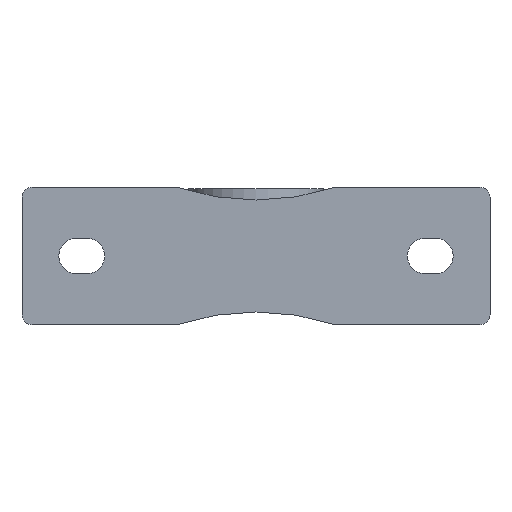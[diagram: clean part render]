
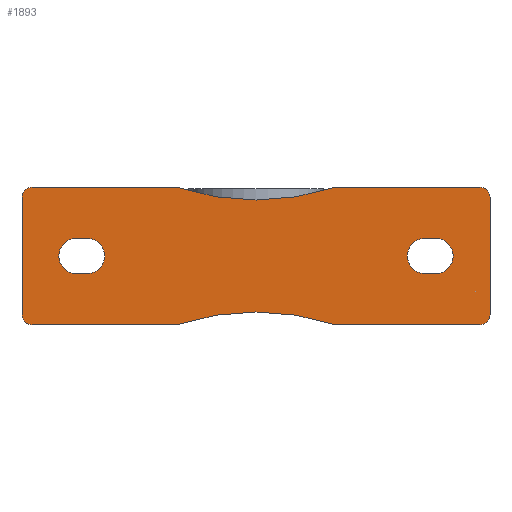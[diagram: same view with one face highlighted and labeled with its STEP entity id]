
A CAD part, front view. The second image highlights one B-rep face of the part: STEP entity #1893.
In plain terms, the highlighted planar face has unit normal (0, -1, 0).
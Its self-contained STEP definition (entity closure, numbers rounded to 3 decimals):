
#84=FACE_BOUND('',#267,.T.);
#85=FACE_BOUND('',#268,.T.);
#104=PLANE('',#2092);
#159=FACE_OUTER_BOUND('',#266,.T.);
#266=EDGE_LOOP('',(#1233,#1234,#1235,#1236,#1237,#1238,#1239,#1240,#1241,
#1242,#1243,#1244));
#267=EDGE_LOOP('',(#1245,#1246,#1247,#1248));
#268=EDGE_LOOP('',(#1249,#1250,#1251,#1252));
#427=LINE('',#2893,#549);
#428=LINE('',#2897,#550);
#429=LINE('',#2901,#551);
#430=LINE('',#2905,#552);
#431=LINE('',#2909,#553);
#432=LINE('',#2912,#554);
#433=LINE('',#2917,#555);
#434=LINE('',#2920,#556);
#435=LINE('',#2925,#557);
#436=LINE('',#2928,#558);
#549=VECTOR('',#2313,10.);
#550=VECTOR('',#2316,10.);
#551=VECTOR('',#2319,10.);
#552=VECTOR('',#2322,10.);
#553=VECTOR('',#2325,10.);
#554=VECTOR('',#2328,10.);
#555=VECTOR('',#2331,10.);
#556=VECTOR('',#2334,10.);
#557=VECTOR('',#2337,10.);
#558=VECTOR('',#2340,10.);
#672=CIRCLE('',#2093,4.);
#673=CIRCLE('',#2094,98.);
#674=CIRCLE('',#2095,4.);
#675=CIRCLE('',#2096,4.);
#676=CIRCLE('',#2097,98.);
#677=CIRCLE('',#2098,4.);
#678=CIRCLE('',#2099,7.);
#679=CIRCLE('',#2100,7.);
#680=CIRCLE('',#2101,7.);
#681=CIRCLE('',#2102,7.);
#766=VERTEX_POINT('',#2889);
#767=VERTEX_POINT('',#2890);
#768=VERTEX_POINT('',#2892);
#769=VERTEX_POINT('',#2894);
#770=VERTEX_POINT('',#2896);
#771=VERTEX_POINT('',#2898);
#772=VERTEX_POINT('',#2900);
#773=VERTEX_POINT('',#2902);
#774=VERTEX_POINT('',#2904);
#775=VERTEX_POINT('',#2906);
#776=VERTEX_POINT('',#2908);
#777=VERTEX_POINT('',#2910);
#778=VERTEX_POINT('',#2913);
#779=VERTEX_POINT('',#2914);
#780=VERTEX_POINT('',#2916);
#781=VERTEX_POINT('',#2918);
#782=VERTEX_POINT('',#2921);
#783=VERTEX_POINT('',#2922);
#784=VERTEX_POINT('',#2924);
#785=VERTEX_POINT('',#2926);
#954=EDGE_CURVE('',#766,#767,#672,.T.);
#955=EDGE_CURVE('',#766,#768,#427,.T.);
#956=EDGE_CURVE('',#768,#769,#673,.T.);
#957=EDGE_CURVE('',#769,#770,#428,.T.);
#958=EDGE_CURVE('',#771,#770,#674,.T.);
#959=EDGE_CURVE('',#771,#772,#429,.T.);
#960=EDGE_CURVE('',#773,#772,#675,.T.);
#961=EDGE_CURVE('',#774,#773,#430,.T.);
#962=EDGE_CURVE('',#774,#775,#676,.T.);
#963=EDGE_CURVE('',#776,#775,#431,.T.);
#964=EDGE_CURVE('',#777,#776,#677,.T.);
#965=EDGE_CURVE('',#777,#767,#432,.T.);
#966=EDGE_CURVE('',#778,#779,#678,.T.);
#967=EDGE_CURVE('',#779,#780,#433,.T.);
#968=EDGE_CURVE('',#780,#781,#679,.T.);
#969=EDGE_CURVE('',#781,#778,#434,.T.);
#970=EDGE_CURVE('',#782,#783,#680,.T.);
#971=EDGE_CURVE('',#783,#784,#435,.T.);
#972=EDGE_CURVE('',#784,#785,#681,.T.);
#973=EDGE_CURVE('',#785,#782,#436,.T.);
#1233=ORIENTED_EDGE('',*,*,#954,.F.);
#1234=ORIENTED_EDGE('',*,*,#955,.T.);
#1235=ORIENTED_EDGE('',*,*,#956,.T.);
#1236=ORIENTED_EDGE('',*,*,#957,.T.);
#1237=ORIENTED_EDGE('',*,*,#958,.F.);
#1238=ORIENTED_EDGE('',*,*,#959,.T.);
#1239=ORIENTED_EDGE('',*,*,#960,.F.);
#1240=ORIENTED_EDGE('',*,*,#961,.F.);
#1241=ORIENTED_EDGE('',*,*,#962,.T.);
#1242=ORIENTED_EDGE('',*,*,#963,.F.);
#1243=ORIENTED_EDGE('',*,*,#964,.F.);
#1244=ORIENTED_EDGE('',*,*,#965,.T.);
#1245=ORIENTED_EDGE('',*,*,#966,.T.);
#1246=ORIENTED_EDGE('',*,*,#967,.T.);
#1247=ORIENTED_EDGE('',*,*,#968,.T.);
#1248=ORIENTED_EDGE('',*,*,#969,.T.);
#1249=ORIENTED_EDGE('',*,*,#970,.T.);
#1250=ORIENTED_EDGE('',*,*,#971,.T.);
#1251=ORIENTED_EDGE('',*,*,#972,.T.);
#1252=ORIENTED_EDGE('',*,*,#973,.T.);
#1893=ADVANCED_FACE('',(#159,#84,#85),#104,.F.);
#2092=AXIS2_PLACEMENT_3D('',#2888,#2309,#2310);
#2093=AXIS2_PLACEMENT_3D('',#2891,#2311,#2312);
#2094=AXIS2_PLACEMENT_3D('',#2895,#2314,#2315);
#2095=AXIS2_PLACEMENT_3D('',#2899,#2317,#2318);
#2096=AXIS2_PLACEMENT_3D('',#2903,#2320,#2321);
#2097=AXIS2_PLACEMENT_3D('',#2907,#2323,#2324);
#2098=AXIS2_PLACEMENT_3D('',#2911,#2326,#2327);
#2099=AXIS2_PLACEMENT_3D('',#2915,#2329,#2330);
#2100=AXIS2_PLACEMENT_3D('',#2919,#2332,#2333);
#2101=AXIS2_PLACEMENT_3D('',#2923,#2335,#2336);
#2102=AXIS2_PLACEMENT_3D('',#2927,#2338,#2339);
#2309=DIRECTION('center_axis',(0.,1.,0.));
#2310=DIRECTION('ref_axis',(0.,0.,1.));
#2311=DIRECTION('center_axis',(0.,1.,0.));
#2312=DIRECTION('ref_axis',(-0.707,0.,-0.707));
#2313=DIRECTION('',(1.,0.,0.));
#2314=DIRECTION('center_axis',(0.,1.,0.));
#2315=DIRECTION('ref_axis',(1.,0.,0.));
#2316=DIRECTION('',(1.,0.,0.));
#2317=DIRECTION('center_axis',(0.,1.,0.));
#2318=DIRECTION('ref_axis',(0.707,0.,-0.707));
#2319=DIRECTION('',(0.,0.,1.));
#2320=DIRECTION('center_axis',(0.,1.,0.));
#2321=DIRECTION('ref_axis',(0.707,0.,0.707));
#2322=DIRECTION('',(1.,0.,0.));
#2323=DIRECTION('center_axis',(0.,1.,0.));
#2324=DIRECTION('ref_axis',(1.,0.,0.));
#2325=DIRECTION('',(1.,0.,0.));
#2326=DIRECTION('center_axis',(0.,1.,0.));
#2327=DIRECTION('ref_axis',(-0.707,0.,0.707));
#2328=DIRECTION('',(0.,0.,-1.));
#2329=DIRECTION('center_axis',(0.,1.,0.));
#2330=DIRECTION('ref_axis',(0.,0.,1.));
#2331=DIRECTION('',(1.,0.,0.));
#2332=DIRECTION('center_axis',(0.,1.,0.));
#2333=DIRECTION('ref_axis',(0.,0.,-1.));
#2334=DIRECTION('',(-1.,0.,0.));
#2335=DIRECTION('center_axis',(0.,1.,0.));
#2336=DIRECTION('ref_axis',(0.,0.,1.));
#2337=DIRECTION('',(-1.,0.,0.));
#2338=DIRECTION('center_axis',(0.,1.,0.));
#2339=DIRECTION('ref_axis',(0.,0.,-1.));
#2340=DIRECTION('',(1.,0.,0.));
#2888=CARTESIAN_POINT('Origin',(-48.8,-49.2,0.));
#2889=CARTESIAN_POINT('',(-88.,-49.2,-27.));
#2890=CARTESIAN_POINT('',(-92.,-49.2,-23.));
#2891=CARTESIAN_POINT('Origin',(-88.,-49.2,-23.));
#2892=CARTESIAN_POINT('',(-30.903,-49.2,-27.));
#2893=CARTESIAN_POINT('',(-92.,-49.2,-27.));
#2894=CARTESIAN_POINT('',(30.903,-49.2,-27.));
#2895=CARTESIAN_POINT('Origin',(0.,-49.2,-120.));
#2896=CARTESIAN_POINT('',(88.,-49.2,-27.));
#2897=CARTESIAN_POINT('',(-92.,-49.2,-27.));
#2898=CARTESIAN_POINT('',(92.,-49.2,-23.));
#2899=CARTESIAN_POINT('Origin',(88.,-49.2,-23.));
#2900=CARTESIAN_POINT('',(92.,-49.2,23.));
#2901=CARTESIAN_POINT('',(92.,-49.2,0.));
#2902=CARTESIAN_POINT('',(88.,-49.2,27.));
#2903=CARTESIAN_POINT('Origin',(88.,-49.2,23.));
#2904=CARTESIAN_POINT('',(30.903,-49.2,27.));
#2905=CARTESIAN_POINT('',(-10.,-49.2,27.));
#2906=CARTESIAN_POINT('',(-30.903,-49.2,27.));
#2907=CARTESIAN_POINT('Origin',(0.,-49.2,120.));
#2908=CARTESIAN_POINT('',(-88.,-49.2,27.));
#2909=CARTESIAN_POINT('',(-10.,-49.2,27.));
#2910=CARTESIAN_POINT('',(-92.,-49.2,23.));
#2911=CARTESIAN_POINT('Origin',(-88.,-49.2,23.));
#2912=CARTESIAN_POINT('',(-92.,-49.2,0.));
#2913=CARTESIAN_POINT('',(66.5,-49.2,-7.));
#2914=CARTESIAN_POINT('',(66.5,-49.2,7.));
#2915=CARTESIAN_POINT('Origin',(66.5,-49.2,0.));
#2916=CARTESIAN_POINT('',(70.5,-49.2,7.));
#2917=CARTESIAN_POINT('',(10.85,-49.2,7.));
#2918=CARTESIAN_POINT('',(70.5,-49.2,-7.));
#2919=CARTESIAN_POINT('Origin',(70.5,-49.2,0.));
#2920=CARTESIAN_POINT('',(8.85,-49.2,-7.));
#2921=CARTESIAN_POINT('',(-66.5,-49.2,7.));
#2922=CARTESIAN_POINT('',(-66.5,-49.2,-7.));
#2923=CARTESIAN_POINT('Origin',(-66.5,-49.2,0.));
#2924=CARTESIAN_POINT('',(-70.5,-49.2,-7.));
#2925=CARTESIAN_POINT('',(-59.65,-49.2,-7.));
#2926=CARTESIAN_POINT('',(-70.5,-49.2,7.));
#2927=CARTESIAN_POINT('Origin',(-70.5,-49.2,0.));
#2928=CARTESIAN_POINT('',(-57.65,-49.2,7.));
